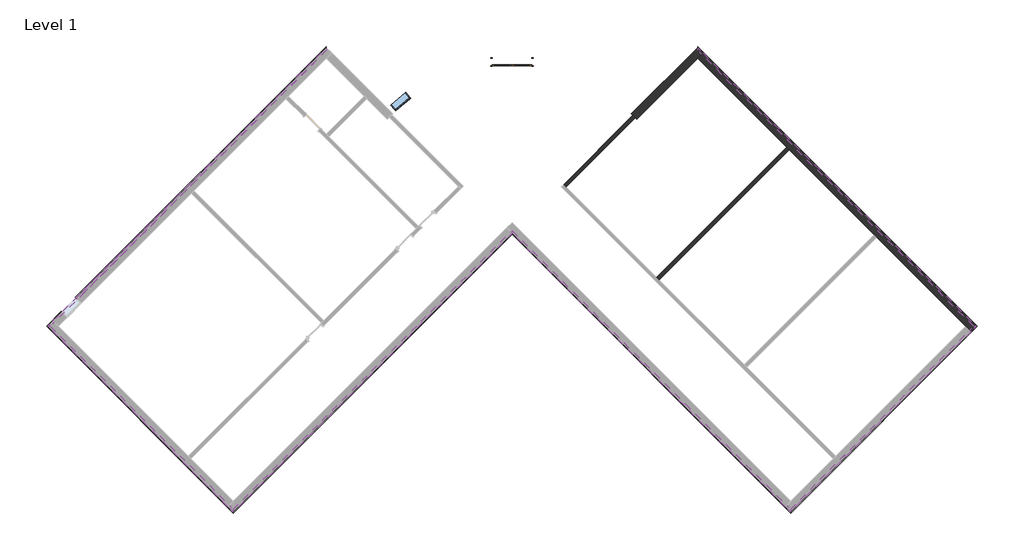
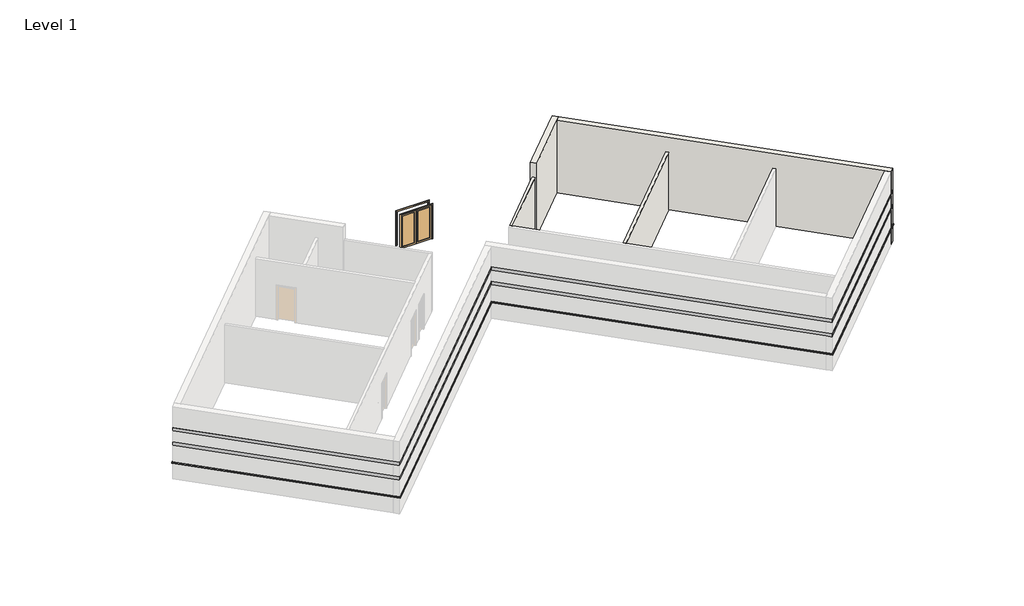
# One storey, part 2 of 2: 18 proxies, 4 walls, 1 door, 1 window.
"""IFC4 building model written with IfcOpenShell, lengths in millimetres."""

import ifcopenshell
import ifcopenshell.guid

model = None  # the IFC model being written
_history = None  # IfcOwnerHistory: only IFC2X3 demands one
_inside = {}  # id of a spatial element -> (the spatial element, [elements in it])
_under = {}  # id of a project, library or spatial element -> (it, [spatial elements below it])
_declared = {}  # id of a project -> (the project, [libraries it declares])
_typed = {}  # id of a type object -> (the type object, [elements of that type])
_made_of = {}  # id of a material, layer set ... -> (it, [elements and type objects made of it])


def new_model(schema):
    """Start an empty IFC model of exactly this schema.

    Asked for "IFC4X3", IfcOpenShell would pick the latest addendum, in which some entities
    have other attributes; the version numbers below select the first issue.
    IFC2X3 requires an IfcOwnerHistory on every rooted entity: one is made here for all.
    """
    global model, _history
    if schema == "IFC4X3":
        model = ifcopenshell.file(schema_version=(4, 3, 0, 0))
    else:
        model = ifcopenshell.file(schema=schema)
    _inside.clear()
    _under.clear()
    _declared.clear()
    _typed.clear()
    _made_of.clear()
    _history = None
    if model.schema == "IFC2X3":
        org = make("IfcOrganization", Name="unknown")
        user = make(
            "IfcPersonAndOrganization",
            ThePerson=make("IfcPerson", FamilyName="unknown"),
            TheOrganization=org,
        )
        app = make(
            "IfcApplication",
            ApplicationDeveloper=org,
            Version="unknown",
            ApplicationFullName="unknown",
            ApplicationIdentifier="unknown",
        )
        _history = make(
            "IfcOwnerHistory",
            OwningUser=user,
            OwningApplication=app,
            ChangeAction="ADDED",
            CreationDate=0,
        )
    return model


def make(cls, **values):
    """One entity of the class cls with the attributes given. An attribute that is None is left unset."""
    return model.create_entity(
        cls, **{name: value for name, value in values.items() if value is not None}
    )


def rooted(cls, **values):
    """An entity with a GlobalId (a new one), such as an element, a storey or a relation."""
    return make(cls, GlobalId=ifcopenshell.guid.new(), OwnerHistory=_history, **values)


def si_unit(unit_type, name, prefix=None):
    """IfcSIUnit, for example si_unit("LENGTHUNIT", "METRE", prefix="MILLI")."""
    return make("IfcSIUnit", UnitType=unit_type, Prefix=prefix, Name=name)


def assignment(units):
    """IfcUnitAssignment: the units of a project."""
    return None if units is None else make("IfcUnitAssignment", Units=units)


def point(xyz):
    """IfcCartesianPoint."""
    return None if xyz is None else make("IfcCartesianPoint", Coordinates=xyz)


def direction(xyz):
    """IfcDirection."""
    return None if xyz is None else make("IfcDirection", DirectionRatios=xyz)


def frame(location, z_axis=None, x_axis=None):
    """IfcAxis2Placement3D, a coordinate frame: its origin and axes. An axis left out is left unset."""
    return make(
        "IfcAxis2Placement3D",
        Location=point(location),
        Axis=direction(z_axis),
        RefDirection=direction(x_axis),
    )


def frame_2d(location, x_axis=None):
    """IfcAxis2Placement2D, a coordinate frame in the plane: its origin and x axis."""
    return make(
        "IfcAxis2Placement2D", Location=point(location), RefDirection=direction(x_axis)
    )


def origin():
    """The frame at (0, 0, 0) with its axes left unset."""
    return frame((0.0, 0.0, 0.0))


def origin_with_axes():
    """The frame at (0, 0, 0) with the z axis (0, 0, 1) and the x axis (1, 0, 0) written out."""
    return frame((0.0, 0.0, 0.0), z_axis=(0.0, 0.0, 1.0), x_axis=(1.0, 0.0, 0.0))


def place(relative_to, where):
    """IfcLocalPlacement: puts the frame where relative to a parent placement (None: the world)."""
    return make(
        "IfcLocalPlacement", PlacementRelTo=relative_to, RelativePlacement=where
    )


def context(
    kind, dimensions, precision=None, world=None, true_north=None, identifier=None
):
    """IfcGeometricRepresentationContext, for example the 3D "Model" context."""
    return make(
        "IfcGeometricRepresentationContext",
        ContextIdentifier=identifier,
        ContextType=kind,
        CoordinateSpaceDimension=dimensions,
        Precision=precision,
        WorldCoordinateSystem=world,
        TrueNorth=true_north,
    )


def project(units=None, contexts=None):
    """IfcProject with its units and contexts."""
    return rooted(
        "IfcProject",
        Name="project",
        RepresentationContexts=contexts,
        UnitsInContext=assignment(units),
    )


def spatial(cls, under=None, at=None, **own):
    """A site, building, storey or space (cls), placed at a placement, below another one or the project."""
    s = rooted(cls, ObjectPlacement=at, **own)
    if under is not None:
        _under.setdefault(under.id(), (under, []))[1].append(s)
    return s


def polyline(points):
    """IfcPolyline through the points."""
    return make("IfcPolyline", Points=[point(p) for p in points])


def circle_curve(where, radius):
    """IfcCircle in the frame where."""
    return make("IfcCircle", Position=where, Radius=radius)


def trimmed(basis, trim1, trim2, sense, master):
    """IfcTrimmedCurve: the piece of a basis curve between two trims."""
    return make(
        "IfcTrimmedCurve",
        BasisCurve=basis,
        Trim1=trim1,
        Trim2=trim2,
        SenseAgreement=sense,
        MasterRepresentation=master,
    )


def segment(curve, same_sense, transition):
    """IfcCompositeCurveSegment."""
    return make(
        "IfcCompositeCurveSegment",
        Transition=transition,
        SameSense=same_sense,
        ParentCurve=curve,
    )


def composite_curve(segments, self_intersect=None):
    """IfcCompositeCurve: segments joined end to end."""
    return make("IfcCompositeCurve", Segments=segments, SelfIntersect=self_intersect)


def outline(outer, holes=None, kind="AREA"):
    """IfcArbitraryClosedProfileDef: a profile drawn as a closed curve; with holes, ...WithVoids."""
    if holes is None:
        return make("IfcArbitraryClosedProfileDef", ProfileType=kind, OuterCurve=outer)
    return make(
        "IfcArbitraryProfileDefWithVoids",
        ProfileType=kind,
        OuterCurve=outer,
        InnerCurves=holes,
    )


def extrude(swept, where, along, depth):
    """IfcExtrudedAreaSolid: the profile swept, set in the frame where, extruded along a direction by depth."""
    return make(
        "IfcExtrudedAreaSolid",
        SweptArea=swept,
        Position=where,
        ExtrudedDirection=direction(along),
        Depth=depth,
    )


def faces_of(points, faces, orient=None, outer=None):
    """IfcFace entities. A face is a list of loops; a loop is a list of indices into points, from 0.

    orient and outer hold one flag for each loop. By default every Orientation is true, the
    first loop of a face is its IfcFaceOuterBound and the others are IfcFaceBound.
    """
    made = []
    for i, loops in enumerate(faces):
        bounds = []
        for j, loop in enumerate(loops):
            is_outer = j == 0 if outer is None else outer[i][j]
            bounds.append(
                make(
                    "IfcFaceOuterBound" if is_outer else "IfcFaceBound",
                    Bound=make("IfcPolyLoop", Polygon=[points[k] for k in loop]),
                    Orientation=True if orient is None else orient[i][j],
                )
            )
        made.append(make("IfcFace", Bounds=bounds))
    return made


def faceted_brep(points, faces, orient=None, outer=None, voids=None):
    """IfcFacetedBrep: a solid bounded by flat faces; with voids (closed shells), ...WithVoids."""
    shared = [point(p) for p in points]
    hull = make("IfcClosedShell", CfsFaces=faces_of(shared, faces, orient, outer))
    if voids is None:
        return make("IfcFacetedBrep", Outer=hull)
    return make(
        "IfcFacetedBrepWithVoids",
        Outer=hull,
        Voids=[
            make(cls, CfsFaces=faces_of(shared, fs, o, b)) for cls, fs, o, b in voids
        ],
    )


def shape(context_of_items, identifier, shape_type, items):
    """IfcShapeRepresentation: the items that make up one representation, for example the "Body"."""
    return make(
        "IfcShapeRepresentation",
        ContextOfItems=context_of_items,
        RepresentationIdentifier=identifier,
        RepresentationType=shape_type,
        Items=items,
    )


def source(mapping_origin, context_of_items, identifier, shape_type, items):
    """IfcRepresentationMap: a shape defined once, which mapped items show again and again."""
    return make(
        "IfcRepresentationMap",
        MappingOrigin=mapping_origin,
        MappedRepresentation=shape(context_of_items, identifier, shape_type, items),
    )


def transform(
    local_origin,
    x_axis=None,
    y_axis=None,
    z_axis=None,
    scale=None,
    scale2=None,
    scale3=None,
    uniform=True,
):
    """IfcCartesianTransformationOperator3D, or its non-uniform kind. x_axis, y_axis, z_axis: its Axis1, 2, 3."""
    if uniform:
        return make(
            "IfcCartesianTransformationOperator3D",
            Axis1=direction(x_axis),
            Axis2=direction(y_axis),
            LocalOrigin=point(local_origin),
            Scale=scale,
            Axis3=direction(z_axis),
        )
    return make(
        "IfcCartesianTransformationOperator3DnonUniform",
        Axis1=direction(x_axis),
        Axis2=direction(y_axis),
        LocalOrigin=point(local_origin),
        Scale=scale,
        Axis3=direction(z_axis),
        Scale2=scale2,
        Scale3=scale3,
    )


def mapped(mapping_source, mapping_target):
    """IfcMappedItem: shows the shape of a source again, moved by a transform."""
    return make(
        "IfcMappedItem", MappingSource=mapping_source, MappingTarget=mapping_target
    )


def made_of(thing, what):
    """Note that an element or type object is made of a material, layer set ...; save() writes the relation."""
    if what is not None:
        _made_of.setdefault(what.id(), (what, []))[1].append(thing)
    return thing


def element(
    cls,
    number,
    at=None,
    inside=None,
    cuts=None,
    type_object=None,
    material=None,
    context=None,
    identifier="Body",
    shape_type=None,
    held_by="IfcProductDefinitionShape",
    body=None,
    shapes=None,
    **own,
):
    """One element of the class cls, such as IfcWall. Its Tag is "e" and its number.

    at: its placement. inside: the storey or other place that contains it. cuts: it is an
    opening in that element (IfcRelVoidsElement). A single representation is given by context,
    identifier, shape_type and body (its items); several are given by shapes. held_by: the class
    of the entity that holds the representations. save() writes the other relations.
    """
    e = rooted(cls, Tag="e%d" % number, ObjectPlacement=at, **own)
    if body is not None:
        shapes = [shape(context, identifier, shape_type, body)]
    if shapes is not None:
        e.Representation = make(held_by, Representations=shapes)
    if inside is not None:
        _inside.setdefault(inside.id(), (inside, []))[1].append(e)
    if cuts is not None:
        rooted(
            "IfcRelVoidsElement", RelatingBuildingElement=cuts, RelatedOpeningElement=e
        )
    if type_object is not None:
        _typed.setdefault(type_object.id(), (type_object, []))[1].append(e)
    return made_of(e, material)


def aggregate(whole, parts):
    """IfcRelAggregates: a whole, such as a stair, and the parts it consists of."""
    return rooted("IfcRelAggregates", RelatingObject=whole, RelatedObjects=parts)


def save(model, path):
    """Write the relations noted so far, then the file.

    IfcRelAggregates (storeys below a building ...), IfcRelContainedInSpatialStructure (elements
    in a storey), IfcRelDefinesByType, IfcRelAssociatesMaterial and IfcRelDeclares: one each for
    every whole, place, type object, material and project.
    """
    for whole, parts in _under.values():
        aggregate(whole, parts)
    for where, things in _inside.values():
        rooted(
            "IfcRelContainedInSpatialStructure",
            RelatedElements=things,
            RelatingStructure=where,
        )
    for kind, things in _typed.values():
        rooted("IfcRelDefinesByType", RelatedObjects=things, RelatingType=kind)
    for what, things in _made_of.values():
        rooted("IfcRelAssociatesMaterial", RelatedObjects=things, RelatingMaterial=what)
    for by, libraries in _declared.values():
        rooted("IfcRelDeclares", RelatingContext=by, RelatedDefinitions=libraries)
    model.write(path)


def plane_surface(at):
    """IfcPlane: the flat surface through the origin of the frame at, square to its z axis."""
    return make("IfcPlane", Position=at)


def cylinder_surface(at, radius):
    """IfcCylindricalSurface: all points at the distance radius from the z axis of the frame at."""
    return make("IfcCylindricalSurface", Position=at, Radius=radius)


def revolved_surface(curve, axis_point, axis_direction):
    """IfcSurfaceOfRevolution: the curve turned about the line through axis_point along axis_direction."""
    return make(
        "IfcSurfaceOfRevolution",
        SweptCurve=make("IfcArbitraryOpenProfileDef", ProfileType="CURVE", Curve=curve),
        AxisPosition=make("IfcAxis1Placement", Location=point(axis_point), Axis=direction(axis_direction)),
    )


def advanced_brep(points, edges, surfaces, faces):
    """IfcAdvancedBrep: a solid bounded by faces that lie on surfaces and meet in shared edges.

    An edge is (start, end): straight between two places in points (the first is 0);
    or (start, end, curve); or (start, end, curve, False) where it runs against its curve.
    A face is (place in surfaces, loops), or (place, loops, False) where it looks against
    its surface's normal. A loop lists edges by number (the first is 1), with a minus sign
    where the edge is run from its end to its start. The first loop is the outer one.
    """
    corners = [point(p) for p in points]
    vertices = [make("IfcVertexPoint", VertexGeometry=c) for c in corners]
    made = []
    for start, end, *more in edges:
        made.append(
            make(
                "IfcEdgeCurve",
                EdgeStart=vertices[start],
                EdgeEnd=vertices[end],
                EdgeGeometry=more[0] if more else make("IfcPolyline", Points=[corners[start], corners[end]]),
                SameSense=more[1] if len(more) > 1 else True,
            )
        )
    hull = []
    for where, loops, *sense in faces:
        bounds = []
        for j, loop in enumerate(loops):
            ring = [make("IfcOrientedEdge", EdgeElement=made[abs(k) - 1], Orientation=k > 0) for k in loop]
            bounds.append(
                make(
                    "IfcFaceOuterBound" if j == 0 else "IfcFaceBound",
                    Bound=make("IfcEdgeLoop", EdgeList=ring),
                    Orientation=True,
                )
            )
        hull.append(make("IfcAdvancedFace", Bounds=bounds, FaceSurface=surfaces[where], SameSense=sense[0] if sense else True))
    return make("IfcAdvancedBrep", Outer=make("IfcClosedShell", CfsFaces=hull))


def door_9e30bd7d(model_context):
    return source(origin(), model_context, "Body", "SweptSolid", [
        extrude(outline(polyline([(2133.6, -914.4), (0.0, -914.4), (0.0, 0.0), (2133.6, 0.0), (2133.6, -914.4)]), holes=[polyline([(2032.0, -812.8), (2032.0, -101.6), (101.6, -101.6), (101.6, -812.8), (2032.0, -812.8)])]), frame((0.0, 127.79375, 0.0), z_axis=(0.0, 1.0, 0.0), x_axis=(0.0, 0.0, 1.0)), (0.0, 0.0, 1.0), 50.8),
        extrude(outline(polyline([(2133.6, 914.4), (2133.6, 0.0), (0.0, 0.0), (0.0, 914.4), (2133.6, 914.4)]), holes=[polyline([(2032.0, 812.8), (101.6, 812.8), (101.6, 101.6), (2032.0, 101.6), (2032.0, 812.8)])]), frame((0.0, 127.79375, 0.0), z_axis=(0.0, 1.0, 0.0), x_axis=(0.0, 0.0, 1.0)), (0.0, 0.0, 1.0), 50.8),
        extrude(outline(polyline([(101.6, 156.36875), (812.8, 156.36875), (812.8, 150.01875), (101.6, 150.01875), (101.6, 156.36875)])), frame((0.0, 0.0, 101.6), z_axis=(0.0, 0.0, 1.0), x_axis=(1.0, 0.0, 0.0)), (0.0, 0.0, 1.0), 1930.4),
        extrude(outline(polyline([(-812.8, 156.36875), (-101.6, 156.36875), (-101.6, 150.01875), (-812.8, 150.01875), (-812.8, 156.36875)])), frame((0.0, 0.0, 101.6), z_axis=(0.0, 0.0, 1.0), x_axis=(1.0, 0.0, 0.0)), (0.0, 0.0, 1.0), 1930.4),
        extrude(outline(polyline([(0.0, 990.6), (2209.8, 990.6), (2209.8, -990.6), (0.0, -990.6), (0.0, -914.4), (2133.6, -914.4), (2133.6, 914.4), (0.0, 914.4), (0.0, 990.6)])), frame((0.0, 178.59375, 0.0), z_axis=(0.0, 1.0, 0.0), x_axis=(0.0, 0.0, 1.0)), (0.0, 0.0, 1.0), 25.4),
        extrude(outline(polyline([(0.0, 990.6), (2209.8, 990.6), (2209.8, -990.6), (0.0, -990.6), (0.0, -914.4), (2133.6, -914.4), (2133.6, 914.4), (0.0, 914.4), (0.0, 990.6)])), frame((0.0, -199.23125, 0.0), z_axis=(0.0, 1.0, 0.0), x_axis=(0.0, 0.0, 1.0)), (0.0, 0.0, 1.0), 25.4),
    ])


def window_15c49d37(model_context):
    return source(origin(), model_context, "Body", "SweptSolid", [
        extrude(outline(polyline([(355.6, 128.5875), (-431.8, 128.5875), (-431.8, 141.2875), (355.6, 141.2875), (355.6, 128.5875)])), frame((0.0, 0.0, 977.9), z_axis=(0.0, 0.0, 1.0), x_axis=(1.0, 0.0, 0.0)), (0.0, 0.0, 1.0), 1092.2),
        extrude(outline(polyline([(2114.55, -476.25), (933.45, -476.25), (933.45, 400.05), (2114.55, 400.05), (2114.55, -476.25)]), holes=[polyline([(2070.1, -431.8), (2070.1, 355.6), (977.9, 355.6), (977.9, -431.8), (2070.1, -431.8)])]), frame((0.0, 112.7125, 0.0), z_axis=(0.0, 1.0, 0.0), x_axis=(0.0, 0.0, 1.0)), (0.0, 0.0, 1.0), 44.45),
        extrude(outline(polyline([(2133.6, -495.3), (914.4, -495.3), (914.4, 419.1), (2133.6, 419.1), (2133.6, -495.3)]), holes=[polyline([(2101.85, -463.55), (2101.85, 387.35), (946.15, 387.35), (946.15, -463.55), (2101.85, -463.55)])]), frame((0.0, -176.2125, 0.0), z_axis=(0.0, 1.0, 0.0), x_axis=(0.0, 0.0, 1.0)), (0.0, 0.0, 1.0), 288.925),
        extrude(outline(polyline([(2133.6, 419.1), (2133.6, -495.3), (914.4, -495.3), (914.4, 419.1), (2133.6, 419.1)]), holes=[polyline([(2114.55, 400.05), (933.45, 400.05), (933.45, -476.25), (2114.55, -476.25), (2114.55, 400.05)])]), frame((0.0, 112.7125, 0.0), z_axis=(0.0, 1.0, 0.0), x_axis=(0.0, 0.0, 1.0)), (0.0, 0.0, 1.0), 63.5),
    ])


model = new_model("IFC4")

# Units and contexts
model_context = context("Model", 3, world=origin())
ifc_project = project(units=[si_unit("LENGTHUNIT", "METRE", prefix="MILLI")], contexts=[model_context])

# Site, building, storey
site = spatial("IfcSite", under=ifc_project)
building = spatial("IfcBuilding", under=site)
storey = spatial("IfcBuildingStorey", under=building, Name="Level 1", Elevation=0.0)

# Proxies
placement = place(None, origin())
element("IfcBuildingElementProxy", 1, Name="Wall Sweeps", at=placement, inside=storey, context=model_context, shape_type="Brep", body=[
    faceted_brep([(5753.0175119, 11443.3655905, 1085.85), (5753.0175119, 11573.5793042, 1085.85), (5753.0175119, 11622.9707129, 1041.4), (5753.0175119, 11622.9707129, 1016.0), (5753.0175119, 11443.3655905, 1016.0), (18554.3726125, -1357.9895101, 1085.85), (18554.3726125, -1357.9895101, 1016.0), (18733.9777349, -1357.9895101, 1016.0), (18733.9777349, -1357.9895101, 1041.4), (18684.5863263, -1357.9895101, 1085.85), (5937.1127624, 11259.27034, 1085.85), (5937.1127624, 11259.27034, 1016.0)], [[[0, 1, 2, 3, 4]], [[5, 6, 7, 8, 9]], [[1, 0, 10, 5, 9]], [[2, 1, 9, 8]], [[3, 2, 8, 7]], [[4, 3, 7, 6, 11]], [[0, 4, 11, 6, 5, 10]]]),
])
element("IfcBuildingElementProxy", 2, Name="Wall Sweeps", at=placement, inside=storey, context=model_context, shape_type="Brep", body=[
    faceted_brep([(5753.0175119, 11573.5793042, 2336.8), (5753.0175119, 11573.5793042, 2133.6), (5753.0175119, 11443.3655905, 2133.6), (5753.0175119, 11443.3655905, 2336.8), (18684.5863263, -1357.9895101, 2336.8), (18554.3726125, -1357.9895101, 2336.8), (18554.3726125, -1357.9895101, 2133.6), (18684.5863263, -1357.9895101, 2133.6), (6002.2196193, 11324.3771969, 2336.8), (6002.2196193, 11324.3771969, 2133.6), (5937.1127624, 11259.27034, 2133.6), (5937.1127624, 11259.27034, 2336.8)], [[[0, 1, 2, 3]], [[4, 5, 6, 7]], [[1, 0, 8, 4, 7, 9]], [[2, 1, 9, 7, 6, 10]], [[3, 2, 10, 6, 5, 11]], [[0, 3, 11, 5, 4, 8]]]),
])
element("IfcBuildingElementProxy", 3, Name="Wall Sweeps", at=placement, inside=storey, context=model_context, shape_type="Brep", body=[
    faceted_brep([(5753.0175119, 11573.5793042, 3251.2), (5753.0175119, 11573.5793042, 3048.0), (5753.0175119, 11443.3655905, 3048.0), (5753.0175119, 11443.3655905, 3251.2), (18684.5863263, -1357.9895101, 3251.2), (18554.3726125, -1357.9895101, 3251.2), (18554.3726125, -1357.9895101, 3048.0), (18684.5863263, -1357.9895101, 3048.0), (6002.2196193, 11324.3771969, 3251.2), (6002.2196193, 11324.3771969, 3048.0), (5937.1127624, 11259.27034, 3048.0), (5937.1127624, 11259.27034, 3251.2)], [[[0, 1, 2, 3]], [[4, 5, 6, 7]], [[1, 0, 8, 4, 7, 9]], [[2, 1, 9, 7, 6, 10]], [[3, 2, 10, 6, 5, 11]], [[0, 3, 11, 5, 4, 8]]]),
])
element("IfcBuildingElementProxy", 4, Name="Wall Sweeps", at=placement, inside=storey, context=model_context, shape_type="Brep", body=[
    faceted_brep([(18554.3726125, -1357.9895101, 1085.85), (18684.5863263, -1357.9895101, 1085.85), (18733.9777349, -1357.9895101, 1041.4), (18733.9777349, -1357.9895101, 1016.0), (18554.3726125, -1357.9895101, 1016.0), (10063.54045, -9848.8216726, 1085.85), (10063.54045, -9848.8216726, 1016.0), (10063.54045, -10028.426795, 1016.0), (10063.54045, -10028.426795, 1041.4), (10063.54045, -9979.0353863, 1085.85), (18370.277362, -1542.0847606, 1085.85), (18370.277362, -1542.0847606, 1016.0)], [[[0, 1, 2, 3, 4]], [[5, 6, 7, 8, 9]], [[1, 0, 10, 5, 9]], [[2, 1, 9, 8]], [[3, 2, 8, 7]], [[4, 3, 7, 6, 11]], [[0, 4, 11, 6, 5, 10]]]),
])
element("IfcBuildingElementProxy", 5, Name="Wall Sweeps", at=placement, inside=storey, context=model_context, shape_type="Brep", body=[
    faceted_brep([(18684.5863263, -1357.9895101, 2336.8), (18684.5863263, -1357.9895101, 2133.6), (18554.3726125, -1357.9895101, 2133.6), (18554.3726125, -1357.9895101, 2336.8), (10063.54045, -9979.0353863, 2336.8), (10063.54045, -9848.8216726, 2336.8), (10063.54045, -9848.8216726, 2133.6), (10063.54045, -9979.0353863, 2133.6), (18435.3842189, -1607.1916175, 2336.8), (18435.3842189, -1607.1916175, 2133.6), (18370.277362, -1542.0847606, 2133.6), (18370.277362, -1542.0847606, 2336.8)], [[[0, 1, 2, 3]], [[4, 5, 6, 7]], [[1, 0, 8, 4, 7, 9]], [[2, 1, 9, 7, 6, 10]], [[3, 2, 10, 6, 5, 11]], [[0, 3, 11, 5, 4, 8]]]),
])
element("IfcBuildingElementProxy", 6, Name="Wall Sweeps", at=placement, inside=storey, context=model_context, shape_type="Brep", body=[
    faceted_brep([(18684.5863263, -1357.9895101, 3251.2), (18684.5863263, -1357.9895101, 3048.0), (18554.3726125, -1357.9895101, 3048.0), (18554.3726125, -1357.9895101, 3251.2), (10063.54045, -9979.0353863, 3251.2), (10063.54045, -9848.8216726, 3251.2), (10063.54045, -9848.8216726, 3048.0), (10063.54045, -9979.0353863, 3048.0), (18435.3842189, -1607.1916175, 3251.2), (18435.3842189, -1607.1916175, 3048.0), (18370.277362, -1542.0847606, 3048.0), (18370.277362, -1542.0847606, 3251.2)], [[[0, 1, 2, 3]], [[4, 5, 6, 7]], [[1, 0, 8, 4, 7, 9]], [[2, 1, 9, 7, 6, 10]], [[3, 2, 10, 6, 5, 11]], [[0, 3, 11, 5, 4, 8]]]),
])
element("IfcBuildingElementProxy", 7, Name="Wall Sweeps", at=placement, inside=storey, context=model_context, shape_type="Brep", body=[
    faceted_brep([(10063.54045, -9848.8216726, 1085.85), (10063.54045, -9979.0353863, 1085.85), (10063.54045, -10028.426795, 1041.4), (10063.54045, -10028.426795, 1016.0), (10063.54045, -9848.8216726, 1016.0), (-2868.0283643, 3082.7471418, 1085.85), (-2868.0283643, 3082.7471418, 1016.0), (-2868.0283643, 2903.1420194, 1016.0), (-2868.0283643, 2903.1420194, 1041.4), (-2868.0283643, 2952.533428, 1085.85), (9879.4451996, -9664.7264221, 1085.85), (9879.4451996, -9664.7264221, 1016.0)], [[[0, 1, 2, 3, 4]], [[5, 6, 7, 8, 9]], [[1, 0, 10, 5, 9]], [[2, 1, 9, 8]], [[3, 2, 8, 7]], [[4, 3, 7, 6, 11]], [[0, 4, 11, 6, 5, 10]]]),
])
element("IfcBuildingElementProxy", 8, Name="Wall Sweeps", at=placement, inside=storey, context=model_context, shape_type="Brep", body=[
    faceted_brep([(10063.54045, -9979.0353863, 2336.8), (10063.54045, -9979.0353863, 2133.6), (10063.54045, -9848.8216726, 2133.6), (10063.54045, -9848.8216726, 2336.8), (-2868.0283643, 2952.533428, 2336.8), (-2868.0283643, 3082.7471418, 2336.8), (-2868.0283643, 3082.7471418, 2133.6), (-2868.0283643, 2952.533428, 2133.6), (9814.3383427, -9729.833279, 2336.8), (9814.3383427, -9729.833279, 2133.6), (9879.4451996, -9664.7264221, 2133.6), (9879.4451996, -9664.7264221, 2336.8)], [[[0, 1, 2, 3]], [[4, 5, 6, 7]], [[1, 0, 8, 4, 7, 9]], [[2, 1, 9, 7, 6, 10]], [[3, 2, 10, 6, 5, 11]], [[0, 3, 11, 5, 4, 8]]]),
])
element("IfcBuildingElementProxy", 9, Name="Wall Sweeps", at=placement, inside=storey, context=model_context, shape_type="Brep", body=[
    faceted_brep([(10063.54045, -9979.0353863, 3251.2), (10063.54045, -9979.0353863, 3048.0), (10063.54045, -9848.8216726, 3048.0), (10063.54045, -9848.8216726, 3251.2), (-2868.0283643, 2952.533428, 3251.2), (-2868.0283643, 3082.7471418, 3251.2), (-2868.0283643, 3082.7471418, 3048.0), (-2868.0283643, 2952.533428, 3048.0), (9814.3383427, -9729.833279, 3251.2), (9814.3383427, -9729.833279, 3048.0), (9879.4451996, -9664.7264221, 3048.0), (9879.4451996, -9664.7264221, 3251.2)], [[[0, 1, 2, 3]], [[4, 5, 6, 7]], [[1, 0, 8, 4, 7, 9]], [[2, 1, 9, 7, 6, 10]], [[3, 2, 10, 6, 5, 11]], [[0, 3, 11, 5, 4, 8]]]),
])
element("IfcBuildingElementProxy", 10, Name="Wall Sweeps", at=placement, inside=storey, context=model_context, shape_type="Brep", body=[
    faceted_brep([(-2868.0283643, 3082.7471418, 1085.85), (-2868.0283643, 2952.533428, 1085.85), (-2868.0283643, 2903.1420194, 1041.4), (-2868.0283643, 2903.1420194, 1016.0), (-2868.0283643, 3082.7471418, 1016.0), (-15799.5971786, -9848.8216726, 1085.85), (-15799.5971786, -9848.8216726, 1016.0), (-15799.5971786, -10028.426795, 1016.0), (-15799.5971786, -10028.426795, 1041.4), (-15799.5971786, -9979.0353863, 1085.85), (-2933.1352212, 3017.6402849, 1085.85), (-2933.1352212, 3017.6402849, 1016.0)], [[[0, 1, 2, 3, 4]], [[5, 6, 7, 8, 9]], [[1, 0, 10, 5, 9]], [[2, 1, 9, 8]], [[3, 2, 8, 7]], [[4, 3, 7, 6, 11]], [[0, 4, 11, 6, 5, 10]]]),
])
element("IfcBuildingElementProxy", 11, Name="Wall Sweeps", at=placement, inside=storey, context=model_context, shape_type="Brep", body=[
    faceted_brep([(-2868.0283643, 2952.533428, 2336.8), (-2868.0283643, 2952.533428, 2133.6), (-2868.0283643, 3082.7471418, 2133.6), (-2868.0283643, 3082.7471418, 2336.8), (-15799.5971786, -9979.0353863, 2336.8), (-15799.5971786, -9848.8216726, 2336.8), (-15799.5971786, -9848.8216726, 2133.6), (-15799.5971786, -9979.0353863, 2133.6), (-2933.1352212, 3017.6402849, 2133.6), (-2933.1352212, 3017.6402849, 2336.8)], [[[0, 1, 2, 3]], [[4, 5, 6, 7]], [[1, 0, 4, 7]], [[2, 1, 7, 6, 8]], [[3, 2, 8, 6, 5, 9]], [[0, 3, 9, 5, 4]]]),
])
element("IfcBuildingElementProxy", 12, Name="Wall Sweeps", at=placement, inside=storey, context=model_context, shape_type="Brep", body=[
    faceted_brep([(-2868.0283643, 2952.533428, 3251.2), (-2868.0283643, 2952.533428, 3048.0), (-2868.0283643, 3082.7471418, 3048.0), (-2868.0283643, 3082.7471418, 3251.2), (-15799.5971786, -9979.0353863, 3251.2), (-15799.5971786, -9848.8216726, 3251.2), (-15799.5971786, -9848.8216726, 3048.0), (-15799.5971786, -9979.0353863, 3048.0), (-2933.1352212, 3017.6402849, 3048.0), (-2933.1352212, 3017.6402849, 3251.2)], [[[0, 1, 2, 3]], [[4, 5, 6, 7]], [[1, 0, 4, 7]], [[2, 1, 7, 6, 8]], [[3, 2, 8, 6, 5, 9]], [[0, 3, 9, 5, 4]]]),
])
element("IfcBuildingElementProxy", 13, Name="Wall Sweeps", at=placement, inside=storey, context=model_context, shape_type="Brep", body=[
    faceted_brep([(-15799.5971786, -9848.8216726, 1085.85), (-15799.5971786, -9979.0353863, 1085.85), (-15799.5971786, -10028.426795, 1041.4), (-15799.5971786, -10028.426795, 1016.0), (-15799.5971786, -9848.8216726, 1016.0), (-24290.4293411, -1357.9895101, 1085.85), (-24290.4293411, -1357.9895101, 1016.0), (-24470.0344635, -1357.9895101, 1016.0), (-24470.0344635, -1357.9895101, 1041.4), (-24420.6430549, -1357.9895101, 1085.85), (-15983.6924291, -9664.7264221, 1085.85), (-15983.6924291, -9664.7264221, 1016.0)], [[[0, 1, 2, 3, 4]], [[5, 6, 7, 8, 9]], [[1, 0, 10, 5, 9]], [[2, 1, 9, 8]], [[3, 2, 8, 7]], [[4, 3, 7, 6, 11]], [[0, 4, 11, 6, 5, 10]]]),
])
element("IfcBuildingElementProxy", 14, Name="Wall Sweeps", at=placement, inside=storey, context=model_context, shape_type="Brep", body=[
    faceted_brep([(-15799.5971786, -9979.0353863, 2336.8), (-15799.5971786, -9979.0353863, 2133.6), (-15799.5971786, -9848.8216726, 2133.6), (-15799.5971786, -9848.8216726, 2336.8), (-24420.6430549, -1357.9895101, 2336.8), (-24290.4293411, -1357.9895101, 2336.8), (-24290.4293411, -1357.9895101, 2133.6), (-24420.6430549, -1357.9895101, 2133.6), (-16048.799286, -9729.833279, 2336.8), (-16048.799286, -9729.833279, 2133.6), (-15983.6924291, -9664.7264221, 2133.6), (-15983.6924291, -9664.7264221, 2336.8)], [[[0, 1, 2, 3]], [[4, 5, 6, 7]], [[1, 0, 8, 4, 7, 9]], [[2, 1, 9, 7, 6, 10]], [[3, 2, 10, 6, 5, 11]], [[0, 3, 11, 5, 4, 8]]]),
])
element("IfcBuildingElementProxy", 15, Name="Wall Sweeps", at=placement, inside=storey, context=model_context, shape_type="Brep", body=[
    faceted_brep([(-15799.5971786, -9979.0353863, 3251.2), (-15799.5971786, -9979.0353863, 3048.0), (-15799.5971786, -9848.8216726, 3048.0), (-15799.5971786, -9848.8216726, 3251.2), (-24420.6430549, -1357.9895101, 3251.2), (-24290.4293411, -1357.9895101, 3251.2), (-24290.4293411, -1357.9895101, 3048.0), (-24420.6430549, -1357.9895101, 3048.0), (-16048.799286, -9729.833279, 3251.2), (-16048.799286, -9729.833279, 3048.0), (-15983.6924291, -9664.7264221, 3048.0), (-15983.6924291, -9664.7264221, 3251.2)], [[[0, 1, 2, 3]], [[4, 5, 6, 7]], [[1, 0, 8, 4, 7, 9]], [[2, 1, 9, 7, 6, 10]], [[3, 2, 10, 6, 5, 11]], [[0, 3, 11, 5, 4, 8]]]),
])
element("IfcBuildingElementProxy", 16, Name="Wall Sweeps", at=placement, inside=storey, context=model_context, shape_type="Brep", body=[
    faceted_brep([(-24290.4293411, -1357.9895101, 1085.85), (-24420.6430549, -1357.9895101, 1085.85), (-24470.0344635, -1357.9895101, 1041.4), (-24470.0344635, -1357.9895101, 1016.0), (-24290.4293411, -1357.9895101, 1016.0), (-23692.119777, -759.679946, 1085.85), (-23692.119777, -759.679946, 1016.0), (-23757.2266339, -694.5730891, 1016.0), (-23781.9223383, -669.8773848, 1016.0), (-23781.9223383, -669.8773848, 1041.4), (-23757.2266339, -694.5730891, 1085.85), (-24106.3340906, -1173.8942596, 1085.85), (-24106.3340906, -1173.8942596, 1016.0)], [[[0, 1, 2, 3, 4]], [[5, 6, 7, 8, 9, 10]], [[1, 0, 11, 5, 10]], [[2, 1, 10, 9]], [[3, 2, 9, 8]], [[4, 3, 8, 7, 6, 12]], [[0, 4, 12, 6, 5, 11]]]),
    faceted_brep([(-23045.5413363, -113.1015053, 1085.85), (-23110.6481932, -47.9946484, 1085.85), (-23135.3438975, -23.2989441, 1041.4), (-23135.3438975, -23.2989441, 1016.0), (-23110.6481932, -47.9946484, 1016.0), (-23045.5413363, -113.1015053, 1016.0), (-11489.0742405, 11443.3655905, 1085.85), (-11489.0742405, 11443.3655905, 1016.0), (-11489.0742405, 11622.9707129, 1016.0), (-11489.0742405, 11622.9707129, 1041.4), (-11489.0742405, 11573.5793042, 1085.85)], [[[0, 1, 2, 3, 4, 5]], [[6, 7, 8, 9, 10]], [[1, 0, 6, 10]], [[2, 1, 10, 9]], [[3, 2, 9, 8]], [[5, 4, 3, 8, 7]], [[0, 5, 7, 6]]]),
])
element("IfcBuildingElementProxy", 17, Name="Wall Sweeps", at=placement, inside=storey, context=model_context, shape_type="Brep", body=[
    faceted_brep([(-24420.6430549, -1357.9895101, 2336.8), (-24420.6430549, -1357.9895101, 2133.6), (-24290.4293411, -1357.9895101, 2133.6), (-24290.4293411, -1357.9895101, 2336.8), (-23757.2266339, -694.5730891, 2336.8), (-23692.119777, -759.679946, 2336.8), (-23692.119777, -759.679946, 2133.6), (-23757.2266339, -694.5730891, 2133.6), (-24171.4409475, -1108.7874027, 2336.8), (-24171.4409475, -1108.7874027, 2133.6), (-24106.3340906, -1173.8942596, 2133.6), (-24106.3340906, -1173.8942596, 2336.8)], [[[0, 1, 2, 3]], [[4, 5, 6, 7]], [[1, 0, 8, 4, 7, 9]], [[2, 1, 9, 7, 6, 10]], [[3, 2, 10, 6, 5, 11]], [[0, 3, 11, 5, 4, 8]]]),
    faceted_brep([(-23110.6481932, -47.9946484, 2336.8), (-23110.6481932, -47.9946484, 2133.6), (-23045.5413363, -113.1015053, 2133.6), (-23045.5413363, -113.1015053, 2336.8), (-11489.0742405, 11573.5793042, 2336.8), (-11489.0742405, 11443.3655905, 2336.8), (-11489.0742405, 11443.3655905, 2133.6), (-11489.0742405, 11573.5793042, 2133.6)], [[[0, 1, 2, 3]], [[4, 5, 6, 7]], [[1, 0, 4, 7]], [[2, 1, 7, 6]], [[3, 2, 6, 5]], [[0, 3, 5, 4]]]),
])
element("IfcBuildingElementProxy", 18, Name="Wall Sweeps", at=placement, inside=storey, context=model_context, shape_type="Brep", body=[
    faceted_brep([(-24420.6430549, -1357.9895101, 3251.2), (-24420.6430549, -1357.9895101, 3048.0), (-24290.4293411, -1357.9895101, 3048.0), (-24290.4293411, -1357.9895101, 3251.2), (-11489.0742405, 11573.5793042, 3251.2), (-11489.0742405, 11443.3655905, 3251.2), (-11489.0742405, 11443.3655905, 3048.0), (-11489.0742405, 11573.5793042, 3048.0), (-24171.4409475, -1108.7874027, 3251.2), (-24171.4409475, -1108.7874027, 3048.0), (-24106.3340906, -1173.8942596, 3048.0), (-24106.3340906, -1173.8942596, 3251.2)], [[[0, 1, 2, 3]], [[4, 5, 6, 7]], [[1, 0, 8, 4, 7, 9]], [[2, 1, 9, 7, 6, 10]], [[3, 2, 10, 6, 5, 11]], [[0, 3, 11, 5, 4, 8]]]),
])

# Door
door_shape = door_9e30bd7d(model_context)
element("IfcDoor", 19, ObjectType="Door-Double-Glass : 72\" x 84\"", at=placement, inside=storey, context=model_context, shape_type="MappedRepresentation", body=[
    mapped(door_shape, transform((-2868.7605421, 10907.9529704, 0.0), x_axis=(-0.9999999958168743, -9.146721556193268e-05, 0.0), y_axis=(9.146721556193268e-05, -0.9999999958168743, 0.0), z_axis=(0.0, 0.0, 1.0))),
])

# Walls
element("IfcWall", 20, ObjectType="Exterior - Split Face and CMU on Mtl. Stud", at=placement, inside=storey, context=model_context, shape_type="AdvancedBrep", body=[
    advanced_brep(
    [(2921.9555443, 8244.1131219, 4572.0), (5753.0175119, 11075.1750895, 4572.0), (6002.2196193, 11324.3771969, 4572.0), (5753.0175119, 11573.5793042, 4572.0), (2926.4294954, 8746.9912878, 4572.0), (2677.2250436, 8497.7868359, 4572.0), (2921.9555443, 8244.1131219, 0.0), (5753.0175119, 11075.1750895, 0.0), (6002.2196193, 11324.3771969, 0.0), (6002.2196193, 11324.3771969, 1016.0), (5937.1127624, 11259.27034, 1016.0), (5937.1127624, 11259.27034, 1085.85), (6002.2196193, 11324.3771969, 1085.85), (6002.2196193, 11324.3771969, 2133.6), (5937.1127624, 11259.27034, 2133.6), (5937.1127624, 11259.27034, 2336.8), (6002.2196193, 11324.3771969, 2336.8), (6002.2196193, 11324.3771969, 3048.0), (5937.1127624, 11259.27034, 3048.0), (5937.1127624, 11259.27034, 3251.2), (6002.2196193, 11324.3771969, 3251.2), (5753.0175119, 11573.5793042, 3251.2), (2926.4294954, 8746.9912878, 3251.2), (2861.3220456, 8681.8838379, 3251.2), (2861.3220456, 8681.8838379, 3048.0), (2926.4294954, 8746.9912878, 3048.0), (5753.0175119, 11573.5793042, 3048.0), (5753.0175119, 11573.5793042, 2336.8), (2926.4294954, 8746.9912878, 2336.8), (2861.3220456, 8681.8838379, 2336.8), (2861.3220456, 8681.8838379, 2133.6), (2926.4294954, 8746.9912878, 2133.6), (5753.0175119, 11573.5793042, 2133.6), (5753.0175119, 11573.5793042, 1085.85), (2926.4294954, 8746.9912878, 1085.85), (2861.3220456, 8681.8838379, 1085.85), (2861.3220456, 8681.8838379, 1016.0), (2926.4294954, 8746.9912878, 1016.0), (5753.0175119, 11573.5793042, 1016.0), (5753.0175119, 11573.5793042, 0.0), (2926.4294954, 8746.9912878, 0.0), (2677.2250436, 8497.7868359, 0.0), (2854.7273962, 8316.0850482, 0.0), (2746.6959573, 8428.0634439, 0.0), (2742.2400511, 8432.5881297, 0.0), (5818.1243688, 11508.4724474, 0.0), (5753.0175119, 11443.3655905, 1085.85), (2926.3399919, 8616.6880705, 1085.85), (2926.3399919, 8616.6880705, 1016.0), (5753.0175119, 11443.3655905, 1016.0), (2926.3399919, 8616.6880705, 2133.6), (5753.0175119, 11443.3655905, 2133.6), (2926.3399919, 8616.6880705, 2336.8), (5753.0175119, 11443.3655905, 2336.8), (2926.3399919, 8616.6880705, 3048.0), (5753.0175119, 11443.3655905, 3048.0), (2926.3399919, 8616.6880705, 3251.2), (5753.0175119, 11443.3655905, 3251.2)],
    [
        (0, 1),
        (1, 2),
        (2, 3),
        (3, 4),
        (4, 5),
        (5, 0, circle_curve(frame((-2868.0283643, 2903.1420194, 4572.0), z_axis=(0.0, 0.0, -1.0), x_axis=(1.0, 0.0, 0.0)), 7877.175)),
        (6, 7),
        (7, 8),
        (8, 9),
        (9, 10),
        (10, 11),
        (11, 12),
        (12, 13),
        (13, 14),
        (14, 15),
        (15, 16),
        (16, 17),
        (17, 18),
        (18, 19),
        (19, 20),
        (20, 2),
        (0, 6),
        (3, 21),
        (21, 22),
        (22, 23),
        (23, 24),
        (24, 25),
        (25, 26),
        (26, 27),
        (27, 28),
        (28, 29),
        (29, 30),
        (30, 31),
        (31, 32),
        (32, 33),
        (33, 34),
        (34, 35),
        (35, 36),
        (36, 37),
        (37, 38),
        (38, 39),
        (39, 40),
        (40, 41),
        (41, 5),
        (6, 42, circle_curve(frame((-2868.0283643, 2903.1420194, 0.0), z_axis=(0.0, 0.0, 1.0), x_axis=(1.0, 0.0, 0.0)), 7877.175)),
        (42, 43, circle_curve(frame((-2868.0283643, 2903.1420194, 0.0), z_axis=(0.0, 0.0, 1.0), x_axis=(1.0, 0.0, 0.0)), 7877.174984)),
        (43, 44, circle_curve(frame((-2868.0283643, 2903.1420194, 0.0), z_axis=(0.0, 0.0, 1.0), x_axis=(1.0, 0.0, 0.0)), 7877.1749984)),
        (44, 45),
        (45, 8),
        (20, 21),
        (45, 39),
        (38, 9),
        (12, 33),
        (32, 13),
        (16, 27),
        (26, 17),
        (44, 41, circle_curve(frame((-2868.0283643, 2903.1420194, 0.0), z_axis=(0.0, 0.0, 1.0), x_axis=(1.0, 0.0, 0.0)), 7877.175)),
        (46, 47),
        (47, 35, circle_curve(frame((-2868.0283643, 2903.1420194, 1085.85), z_axis=(0.0, 0.0, 1.0), x_axis=(0.11102020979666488, 0.9938181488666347, 0.0)), 8137.525)),
        (11, 46),
        (48, 49),
        (49, 10),
        (36, 48, circle_curve(frame((-2868.0283643, 2903.1420194, 1016.0), z_axis=(0.0, 0.0, -1.0), x_axis=(0.11102020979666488, 0.9938181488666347, 0.0)), 8137.525)),
        (47, 48),
        (46, 49),
        (50, 51),
        (51, 14),
        (30, 50, circle_curve(frame((-2868.0283643, 2903.1420194, 2133.6), z_axis=(0.0, 0.0, -1.0), x_axis=(0.11102020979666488, 0.9938181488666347, 0.0)), 8137.525)),
        (52, 50),
        (29, 52, circle_curve(frame((-2868.0283643, 2903.1420194, 2336.8), z_axis=(0.0, 0.0, -1.0), x_axis=(0.11102020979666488, 0.9938181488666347, 0.0)), 8137.525)),
        (53, 52),
        (15, 53),
        (53, 51),
        (54, 55),
        (55, 18),
        (24, 54, circle_curve(frame((-2868.0283643, 2903.1420194, 3048.0), z_axis=(0.0, 0.0, -1.0), x_axis=(-0.7040995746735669, 0.7101012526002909, 0.0)), 8137.525)),
        (56, 54),
        (23, 56, circle_curve(frame((-2868.0283643, 2903.1420194, 3251.2), z_axis=(0.0, 0.0, -1.0), x_axis=(-0.7040995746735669, 0.7101012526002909, 0.0)), 8137.525)),
        (57, 56),
        (19, 57),
        (57, 55),
    ],
    [
        plane_surface(frame((5877.6185656, 11199.7761432, 4572.0), z_axis=(0.0, 0.0, 1.0), x_axis=(-0.707106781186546, 0.7071067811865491, 0.0))),
        plane_surface(frame((2984.8535626, 8307.0111402, 0.0), z_axis=(0.707106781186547, -0.7071067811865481, 0.0), x_axis=(0.7071067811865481, 0.707106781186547, 0.0))),
        plane_surface(frame((2735.6514552, 8556.2132476, 0.0), z_axis=(-0.707106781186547, 0.7071067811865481, 0.0), x_axis=(-0.7071067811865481, -0.707106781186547, 0.0))),
        plane_surface(frame((3050.2065213, 8372.3640989, 0.0), z_axis=(0.0, 0.0, -1.0000000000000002), x_axis=(-0.7071067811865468, 0.7071067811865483, 0.0))),
        plane_surface(frame((5753.0175119, 11573.5793042, 0.0), z_axis=(0.7071067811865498, 0.7071067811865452, 0.0), x_axis=(-0.7071067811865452, 0.7071067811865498, 0.0))),
        plane_surface(frame((0.0, 0.0, 0.0), z_axis=(0.0, 0.0, -1.0), x_axis=(1.0, 0.0, 0.0))),
        revolved_surface(polyline([(5009.146635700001, 2903.1420194, 0.0), (5009.146635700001, 2903.1420194, 4572.0)]), (-2868.0283643, 2903.1420194, 0.0), (0.0, 0.0, -1.0)),
        plane_surface(frame((-2868.0283643, 2903.1420194, 1085.85), z_axis=(0.0, 0.0, -1.0), x_axis=(0.1110202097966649, 0.9938181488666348, 0.0))),
        plane_surface(frame((-2868.0283643, 2903.1420194, 1016.0), z_axis=(0.0, 0.0, 1.0), x_axis=(0.1110202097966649, 0.9938181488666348, 0.0))),
        cylinder_surface(frame((-2868.0283643, 2903.1420194, 1016.0), z_axis=(0.0, 0.0, -1.0), x_axis=(0.11102020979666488, 0.9938181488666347, 0.0)), 8137.525),
        plane_surface(frame((2926.3399919, 8616.6880705, 1016.0), z_axis=(-0.7071067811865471, 0.707106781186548, 0.0), x_axis=(0.707106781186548, 0.7071067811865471, 0.0))),
        plane_surface(frame((5753.0175119, 11443.3655905, 1016.0), z_axis=(0.7071067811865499, 0.7071067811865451, 0.0), x_axis=(0.7071067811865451, -0.7071067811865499, 0.0))),
        plane_surface(frame((-2868.0283643, 2903.1420194, 2133.6), z_axis=(0.0, 0.0, 1.0), x_axis=(0.1110202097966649, 0.9938181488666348, 0.0))),
        cylinder_surface(frame((-2868.0283643, 2903.1420194, 2133.6), z_axis=(0.0, 0.0, -1.0), x_axis=(0.11102020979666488, 0.9938181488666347, 0.0)), 8137.525),
        plane_surface(frame((-2868.0283643, 2903.1420194, 2336.8), z_axis=(0.0, 0.0, -1.0), x_axis=(0.1110202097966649, 0.9938181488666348, 0.0))),
        plane_surface(frame((2926.3399919, 8616.6880705, 2133.6), z_axis=(-0.707106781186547, 0.7071067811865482, 0.0), x_axis=(0.7071067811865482, 0.707106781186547, 0.0))),
        plane_surface(frame((5753.0175119, 11443.3655905, 2133.6), z_axis=(0.7071067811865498, 0.7071067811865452, 0.0), x_axis=(0.7071067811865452, -0.7071067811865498, 0.0))),
        plane_surface(frame((-2868.0283643, 2903.1420194, 3048.0), z_axis=(0.0, 0.0, 1.0), x_axis=(-0.7040995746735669, 0.7101012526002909, 0.0))),
        cylinder_surface(frame((-2868.0283643, 2903.1420194, 3048.0), z_axis=(0.0, 0.0, -1.0), x_axis=(-0.7040995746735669, 0.7101012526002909, 0.0)), 8137.525),
        plane_surface(frame((-2868.0283643, 2903.1420194, 3251.2), z_axis=(0.0, 0.0, -1.0), x_axis=(-0.7040995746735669, 0.7101012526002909, 0.0))),
        plane_surface(frame((2926.3399919, 8616.6880705, 3048.0), z_axis=(-0.707106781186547, 0.7071067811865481, 0.0), x_axis=(0.7071067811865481, 0.707106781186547, 0.0))),
        plane_surface(frame((5753.0175119, 11443.3655905, 3048.0), z_axis=(0.7071067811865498, 0.7071067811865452, 0.0), x_axis=(0.7071067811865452, -0.7071067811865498, 0.0))),
    ],
    [
        (0, [[1, 2, 3, 4, 5, 6]]),
        (1, [[7, 8, 9, 10, 11, 12, 13, 14, 15, 16, 17, 18, 19, 20, 21, -2, -1, 22]]),
        (2, [[-5, -4, 23, 24, 25, 26, 27, 28, 29, 30, 31, 32, 33, 34, 35, 36, 37, 38, 39, 40, 41, 42, 43, 44]]),
        (3, [[-8, -7, 45, 46, 47, 48, 49]]),
        (4, [[-3, -21, 50, -23]]),
        (4, [[-49, 51, -41, 52, -9]]),
        (4, [[53, -35, 54, -13]]),
        (4, [[55, -29, 56, -17]]),
        (5, [[-43, -42, -51, -48, 57]]),
        (6, [[-6, -44, -57, -47, -46, -45, -22]]),
        (7, [[58, 59, -37, -36, -53, -12, 60]]),
        (8, [[61, 62, -10, -52, -40, -39, 63]]),
        (9, [[64, -63, -38, -59]]),
        (10, [[-58, 65, -61, -64]]),
        (11, [[-65, -60, -11, -62]]),
        (12, [[66, 67, -14, -54, -34, -33, 68]]),
        (13, [[69, -68, -32, 70]]),
        (14, [[71, -70, -31, -30, -55, -16, 72]]),
        (15, [[-66, -69, -71, 73]]),
        (16, [[-73, -72, -15, -67]]),
        (17, [[74, 75, -18, -56, -28, -27, 76]]),
        (18, [[77, -76, -26, 78]]),
        (19, [[79, -78, -25, -24, -50, -20, 80]]),
        (20, [[-74, -77, -79, 81]]),
        (21, [[-81, -80, -19, -75]]),
    ],
),
])
element("IfcWall", 21, ObjectType="Exterior - Split Face and CMU on Mtl. Stud", at=placement, inside=storey, context=model_context, shape_type="Brep", body=[
    faceted_brep([(5753.0175119, 11075.1750895, 4572.0), (18186.1821115, -1357.9895101, 4572.0), (18435.3842189, -1607.1916175, 4572.0), (18684.5863263, -1357.9895101, 4572.0), (6002.2196193, 11324.3771969, 4572.0), (5753.0175119, 11075.1750895, 0.0), (9883.9353276, 6944.2572738, 0.0), (9993.9434651, 6834.2491364, 0.0), (13945.2561584, 2882.9364431, 0.0), (14055.2642958, 2772.9283056, 0.0), (18186.1821115, -1357.9895101, 0.0), (18435.3842189, -1607.1916175, 0.0), (18435.3842189, -1607.1916175, 1016.0), (18370.277362, -1542.0847606, 1016.0), (18370.277362, -1542.0847606, 1085.85), (18435.3842189, -1607.1916175, 1085.85), (18435.3842189, -1607.1916175, 2133.6), (18370.277362, -1542.0847606, 2133.6), (18370.277362, -1542.0847606, 2336.8), (18435.3842189, -1607.1916175, 2336.8), (18435.3842189, -1607.1916175, 3048.0), (18370.277362, -1542.0847606, 3048.0), (18370.277362, -1542.0847606, 3251.2), (18435.3842189, -1607.1916175, 3251.2), (18684.5863263, -1357.9895101, 3251.2), (6002.2196193, 11324.3771969, 3251.2), (18684.5863263, -1357.9895101, 0.0), (6002.2196193, 11324.3771969, 0.0), (6002.2196193, 11324.3771969, 1016.0), (18684.5863263, -1357.9895101, 1016.0), (18684.5863263, -1357.9895101, 1085.85), (6002.2196193, 11324.3771969, 1085.85), (6002.2196193, 11324.3771969, 2133.6), (18684.5863263, -1357.9895101, 2133.6), (18684.5863263, -1357.9895101, 2336.8), (6002.2196193, 11324.3771969, 2336.8), (6002.2196193, 11324.3771969, 3048.0), (18684.5863263, -1357.9895101, 3048.0), (5937.1127624, 11259.27034, 0.0), (18619.4794694, -1423.096367, 0.0), (5937.1127624, 11259.27034, 3251.2), (5937.1127624, 11259.27034, 3048.0), (5937.1127624, 11259.27034, 2336.8), (5937.1127624, 11259.27034, 2133.6), (5937.1127624, 11259.27034, 1085.85), (5937.1127624, 11259.27034, 1016.0), (18554.3726125, -1357.9895101, 1085.85), (18554.3726125, -1357.9895101, 1016.0), (18554.3726125, -1357.9895101, 2133.6), (18554.3726125, -1357.9895101, 2336.8), (18554.3726125, -1357.9895101, 3048.0), (18554.3726125, -1357.9895101, 3251.2)], [[[0, 1, 2, 3, 4]], [[5, 6, 7, 8, 9, 10, 11, 12, 13, 14, 15, 16, 17, 18, 19, 20, 21, 22, 23, 2, 1, 0]], [[4, 3, 24, 25]], [[26, 27, 28, 29]], [[30, 31, 32, 33]], [[34, 35, 36, 37]], [[11, 10, 9, 8, 7, 6, 5, 38, 39]], [[5, 0, 4, 25, 40, 41, 36, 35, 42, 43, 32, 31, 44, 45, 28, 27, 38]], [[27, 26, 39, 38]], [[3, 2, 23, 24]], [[11, 39, 26, 29, 12]], [[15, 30, 33, 16]], [[19, 34, 37, 20]], [[14, 46, 44, 31, 30, 15]], [[45, 47, 13, 12, 29, 28]], [[46, 47, 45, 44]], [[47, 46, 14, 13]], [[43, 48, 17, 16, 33, 32]], [[18, 49, 42, 35, 34, 19]], [[49, 48, 43, 42]], [[48, 49, 18, 17]], [[41, 50, 21, 20, 37, 36]], [[22, 51, 40, 25, 24, 23]], [[51, 50, 41, 40]], [[50, 51, 22, 21]]]),
])
element("IfcWall", 22, ObjectType="Interior - 6 1/8\" Partition (2-hr)", at=placement, inside=storey, context=model_context, shape_type="SweptSolid", body=[
    extrude(outline(polyline([(3846.9581502, 907.2800964), (9883.9353276, 6944.2572738), (9993.9434651, 6834.2491364), (3956.9662877, 797.271959), (3846.9581502, 907.2800964)])), origin_with_axes(), (0.0, 0.0, 1.0), 3657.6),
])
element("IfcWall", 23, ObjectType="Interior - 6 1/8\" Partition (2-hr)", at=placement, inside=storey, context=model_context, shape_type="SweptSolid", body=[
    extrude(outline(composite_curve([segment(polyline([(-463.5647879, 5217.8030346), (2746.6957919, 8428.0636143)]), True, "CONTINUOUS"), segment(trimmed(circle_curve(frame_2d((-2868.0283643, 2903.1420194)), 7877.175), [point((2746.6957919, 8428.0636143))], [point((2854.7303749, 8316.0819224))], False, "CARTESIAN"), True, "CONTINUOUS"), segment(polyline([(2854.7303749, 8316.0819224), (-353.5566504, 5107.7948971), (-463.5647879, 5217.8030346)]), True, "CONTINUOUS")], self_intersect=False)), origin_with_axes(), (0.0, 0.0, 1.0), 3657.6),
])

# Window
window_shape = window_15c49d37(model_context)
element("IfcWindow", 24, ObjectType="Fixed : 36\" x 48\"", at=placement, inside=storey, context=model_context, shape_type="MappedRepresentation", body=[
    mapped(window_shape, transform((-8066.2237793, 9037.6928325, 0.0), x_axis=(-0.7659856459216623, -0.6428576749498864, 0.0), y_axis=(0.6428576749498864, -0.7659856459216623, 0.0), z_axis=(0.0, 0.0, 1.0))),
])

save(model, "model.ifc")
